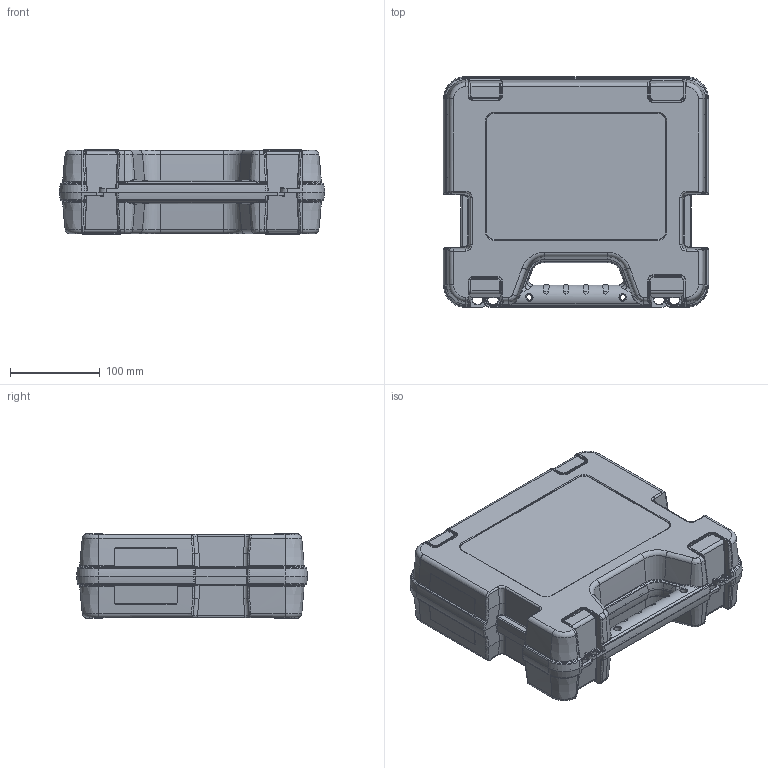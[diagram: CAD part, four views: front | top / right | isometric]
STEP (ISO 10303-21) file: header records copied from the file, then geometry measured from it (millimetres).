
FILE_DESCRIPTION(/* description */ (''),/* implementation_level */ '2;1');
FILE_NAME(/* name */ 'C40_Case_OT-UT.stp',/* time_stamp */ '2014-10-06T09:38:22+02:00',/* author */ (''),/* organization */ (''),/* preprocessor_version */ 'ST-DEVELOPER v15',/* originating_system */ 'SIEMENS PLM Software NX 8.5',/* authorisation */ '');
FILE_SCHEMA (('AUTOMOTIVE_DESIGN { 1 0 10303 214 3 1 1 1 }'));
Products named in the file (1): pk1A9099730gxj
Bounding box: 295 x 257 x 94.5 mm (x, y, z)
Volume: 550096.9 mm3; surface area: 487712.9 mm2
Topology: 2 solids, 2 shells, 2650 faces, 6458 edges, 3754 vertices
Faces by surface type: cylinder 964, bspline 930, plane 488, torus 172, cone 76, sphere 20
Entity records: 95642 total; most frequent: CARTESIAN_POINT 37379, ORIENTED_EDGE 12728, DIRECTION 11492, EDGE_CURVE 6364, AXIS2_PLACEMENT_3D 4551, VERTEX_POINT 3740, EDGE_LOOP 2688, ADVANCED_FACE 2648
